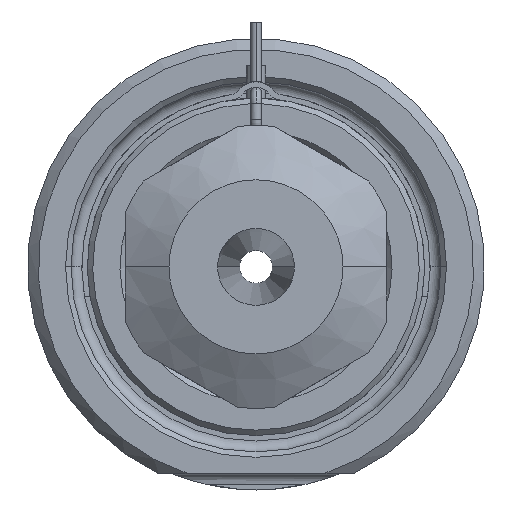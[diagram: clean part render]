
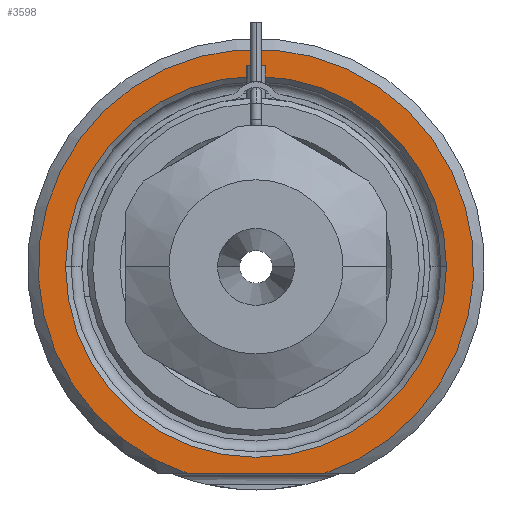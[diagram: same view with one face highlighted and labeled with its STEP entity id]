
A CAD part, front view. The second image highlights one B-rep face of the part: STEP entity #3598.
In plain terms, the highlighted planar face has unit normal (0, -1, 0).
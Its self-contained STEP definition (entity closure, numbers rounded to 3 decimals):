
#679=DIRECTION('',(1.,0.,0.));
#680=VECTOR('',#679,12.49);
#681=CARTESIAN_POINT('',(-6.245,0.,-19.));
#682=LINE('',#681,#680);
#683=CARTESIAN_POINT('',(0.,0.,0.));
#684=DIRECTION('',(0.,1.,0.));
#685=DIRECTION('',(-1.,0.,0.));
#686=AXIS2_PLACEMENT_3D('',#683,#684,#685);
#688=CARTESIAN_POINT('',(0.,0.,0.));
#689=DIRECTION('',(0.,1.,0.));
#690=DIRECTION('',(1.,0.,0.));
#691=AXIS2_PLACEMENT_3D('',#688,#689,#690);
#797=CARTESIAN_POINT('',(0.,0.,0.));
#798=DIRECTION('',(0.,-1.,0.));
#799=DIRECTION('',(0.312,0.,-0.95));
#800=AXIS2_PLACEMENT_3D('',#797,#798,#799);
#2417=CARTESIAN_POINT('',(-17.5,0.,0.));
#2418=CARTESIAN_POINT('',(17.5,0.,0.));
#2419=VERTEX_POINT('',#2417);
#2420=VERTEX_POINT('',#2418);
#2461=CARTESIAN_POINT('',(-6.245,0.,-19.));
#2462=CARTESIAN_POINT('',(6.245,0.,-19.));
#2463=VERTEX_POINT('',#2461);
#2464=VERTEX_POINT('',#2462);
#3582=CARTESIAN_POINT('',(0.,0.,0.));
#3583=DIRECTION('',(0.,-1.,0.));
#3584=DIRECTION('',(1.,0.,0.));
#3585=AXIS2_PLACEMENT_3D('',#3582,#3583,#3584);
#3586=PLANE('',#3585);
#3588=ORIENTED_EDGE('',*,*,#3587,.F.);
#3590=ORIENTED_EDGE('',*,*,#3589,.F.);
#3591=EDGE_LOOP('',(#3588,#3590));
#3592=FACE_OUTER_BOUND('',#3591,.F.);
#3593=ORIENTED_EDGE('',*,*,#3572,.F.);
#3595=ORIENTED_EDGE('',*,*,#3594,.F.);
#3596=EDGE_LOOP('',(#3593,#3595));
#3597=FACE_BOUND('',#3596,.F.);
#3598=ADVANCED_FACE('',(#3592,#3597),#3586,.T.);
#687=CIRCLE('',#686,17.5);
#692=CIRCLE('',#691,17.5);
#801=CIRCLE('',#800,20.);
#3572=EDGE_CURVE('',#2419,#2420,#687,.T.);
#3587=EDGE_CURVE('',#2463,#2464,#682,.T.);
#3589=EDGE_CURVE('',#2464,#2463,#801,.T.);
#3594=EDGE_CURVE('',#2420,#2419,#692,.T.);
